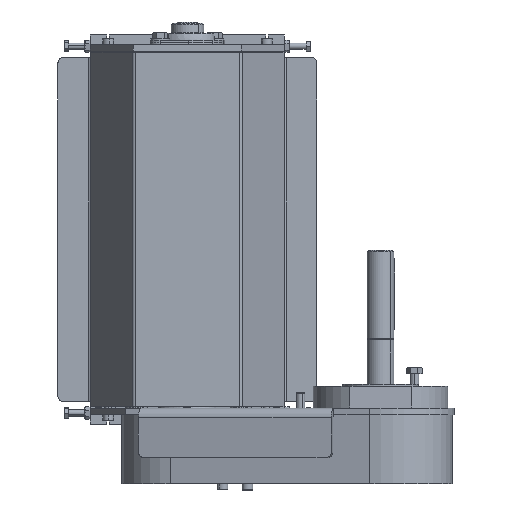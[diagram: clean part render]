
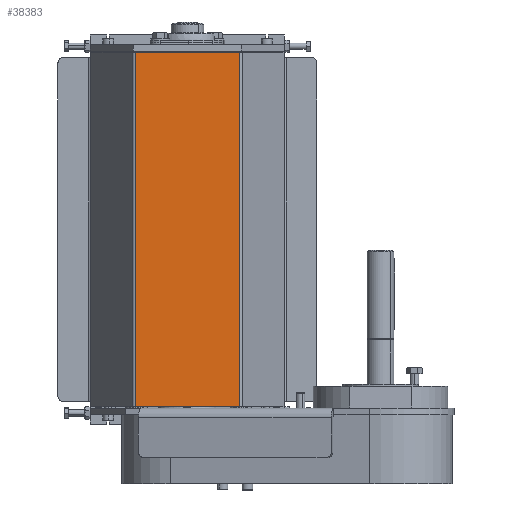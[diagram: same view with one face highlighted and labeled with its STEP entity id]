
A CAD part, front view. The second image highlights one B-rep face of the part: STEP entity #38383.
In plain terms, the highlighted planar face has unit normal (0, -1, 0).
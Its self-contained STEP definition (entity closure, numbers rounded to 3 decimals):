
#392 = CARTESIAN_POINT ( 'NONE',  ( -48.268, 0., -164.5 ) ) ;
#1665 = CARTESIAN_POINT ( 'NONE',  ( 48.268, 0., -164.5 ) ) ;
#5928 = DIRECTION ( 'NONE',  ( 1., 0., 0. ) ) ;
#9170 = EDGE_LOOP ( 'NONE', ( #32904, #14558, #45620, #38081 ) ) ;
#12236 = CARTESIAN_POINT ( 'NONE',  ( 48.268, 0., 164.5 ) ) ;
#13952 = DIRECTION ( 'NONE',  ( 1., 0., 0. ) ) ;
#14426 = VERTEX_POINT ( 'NONE', #392 ) ;
#14558 = ORIENTED_EDGE ( 'NONE', *, *, #38842, .F. ) ;
#16099 = LINE ( 'NONE', #12236, #44854 ) ;
#16714 = CARTESIAN_POINT ( 'NONE',  ( -48.268, 0., 164.5 ) ) ;
#17061 = CARTESIAN_POINT ( 'NONE',  ( -50., 0., 164.5 ) ) ;
#17136 = LINE ( 'NONE', #45039, #28605 ) ;
#20319 = VERTEX_POINT ( 'NONE', #23561 ) ;
#20605 = DIRECTION ( 'NONE',  ( -1., 0., 0. ) ) ;
#21196 = CARTESIAN_POINT ( 'NONE',  ( 48.268, 0., 164.5 ) ) ;
#23561 = CARTESIAN_POINT ( 'NONE',  ( -48.268, 0., 164.5 ) ) ;
#27060 = EDGE_CURVE ( 'NONE', #20319, #39039, #34904, .T. ) ;
#27314 = LINE ( 'NONE', #16714, #30776 ) ;
#28605 = VECTOR ( 'NONE', #5928, 1000. ) ;
#30703 = DIRECTION ( 'NONE',  ( 0., 0., -1. ) ) ;
#30776 = VECTOR ( 'NONE', #38526, 1000. ) ;
#32001 = AXIS2_PLACEMENT_3D ( 'NONE', #17061, #39015, #20605 ) ;
#32904 = ORIENTED_EDGE ( 'NONE', *, *, #35137, .T. ) ;
#34904 = LINE ( 'NONE', #35932, #36613 ) ;
#35137 = EDGE_CURVE ( 'NONE', #14426, #43263, #17136, .T. ) ;
#35932 = CARTESIAN_POINT ( 'NONE',  ( -50., 0., 164.5 ) ) ;
#36613 = VECTOR ( 'NONE', #13952, 1000. ) ;
#38081 = ORIENTED_EDGE ( 'NONE', *, *, #46447, .T. ) ;
#38383 = ADVANCED_FACE ( 'NONE', ( #43872 ), #38552, .F. ) ;
#38526 = DIRECTION ( 'NONE',  ( 0., 0., -1. ) ) ;
#38552 = PLANE ( 'NONE',  #32001 ) ;
#38842 = EDGE_CURVE ( 'NONE', #39039, #43263, #16099, .T. ) ;
#39015 = DIRECTION ( 'NONE',  ( 0., 1., 0. ) ) ;
#39039 = VERTEX_POINT ( 'NONE', #21196 ) ;
#43263 = VERTEX_POINT ( 'NONE', #1665 ) ;
#43872 = FACE_OUTER_BOUND ( 'NONE', #9170, .T. ) ;
#44854 = VECTOR ( 'NONE', #30703, 1000. ) ;
#45039 = CARTESIAN_POINT ( 'NONE',  ( -50., 0., -164.5 ) ) ;
#45620 = ORIENTED_EDGE ( 'NONE', *, *, #27060, .F. ) ;
#46447 = EDGE_CURVE ( 'NONE', #20319, #14426, #27314, .T. ) ;
